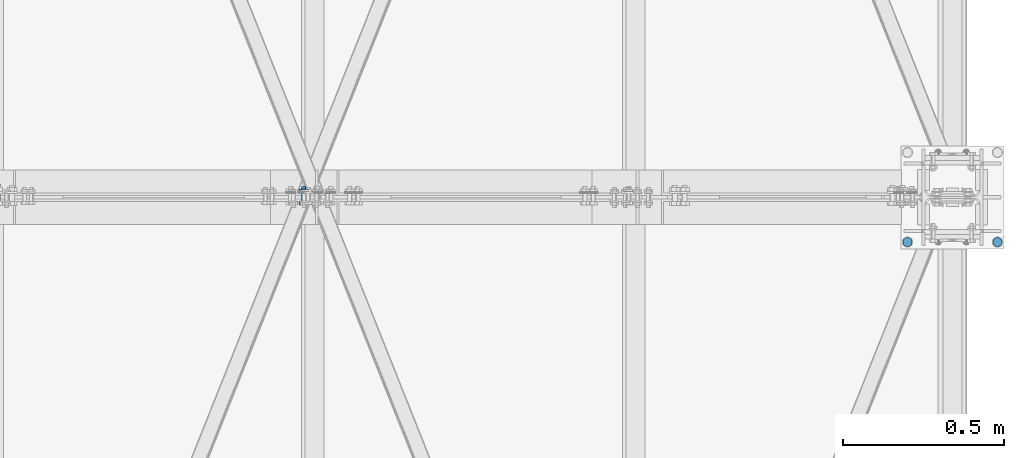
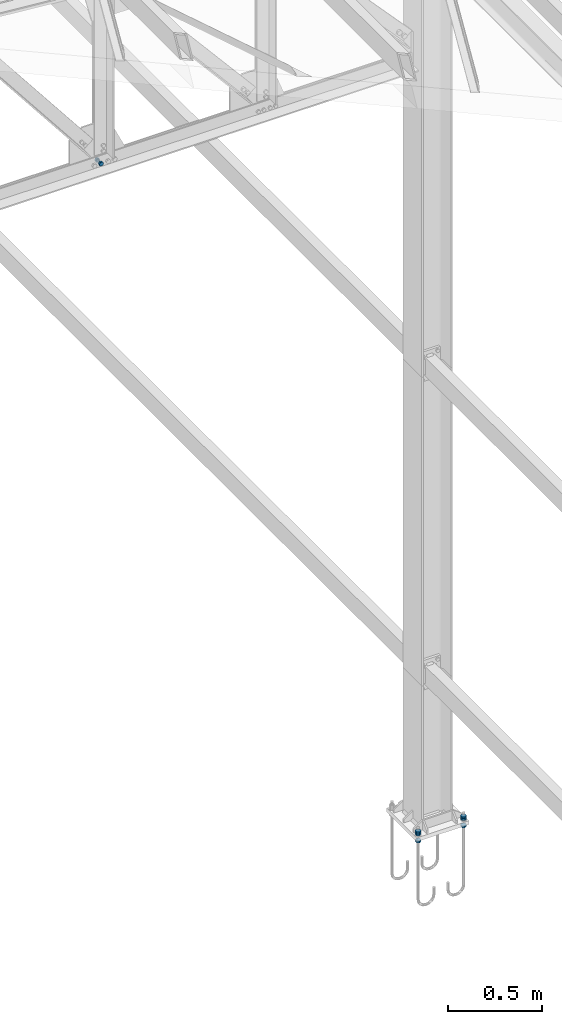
# One storey, part 157 of 251: 9 mechanical fasteners.
"""IFC4 building model written with IfcOpenShell, lengths in metres."""

from ifc_helpers import new_model, si_unit, frame, origin_with_axes, place, context, project, spatial, polyline, outline, extrude, type_object, element, save


model = new_model("IFC4")

# Units and contexts
model_context = context("Model", 3, precision=1e-05, world=origin_with_axes())
ifc_project = project(units=[si_unit("LENGTHUNIT", "METRE"), si_unit("AREAUNIT", "SQUARE_METRE"), si_unit("VOLUMEUNIT", "CUBIC_METRE"), si_unit("MASSUNIT", "GRAM", prefix="KILO"), si_unit("TIMEUNIT", "SECOND"), si_unit("PLANEANGLEUNIT", "RADIAN"), si_unit("SOLIDANGLEUNIT", "STERADIAN"), si_unit("THERMODYNAMICTEMPERATUREUNIT", "DEGREE_CELSIUS")], contexts=[model_context])

# Site, building, storey
placement_1 = place(None, origin_with_axes())
site = spatial("IfcSite", under=ifc_project, at=placement_1, Name="Italia", CompositionType="ELEMENT")
building = spatial("IfcBuilding", under=site, at=placement_1, Name="Deposito", CompositionType="ELEMENT")
storey = spatial("IfcBuildingStorey", under=building, at=placement_1, Name="Storey 0", CompositionType="ELEMENT", Elevation=0.0)

# Mechanical fasteners
mechanical_fastener_type_1 = type_object("IfcMechanicalFastenerType", Name="Collegamenti 0014_-001 0016_-054 0018_-056 0032_-002 0033_-058 0047_-003 0048_-060 0062_-004 0063_-005 0079_-008", PredefinedType="BOLT")
placement_2 = place(placement_1, origin_with_axes())
mechanical_fastener_1_placement = place(placement_2, origin_with_axes())
element("IfcMechanicalFastener", 1, at=mechanical_fastener_1_placement, inside=storey, type_object=mechanical_fastener_type_1, Name="Collegamenti 0014_-001 0016_-054 0018_-056 0032_-002 0033_-058 0047_-003 0048_-060 0062_-004 0063_-005 0079_-008", NominalDiameter=0.0160001, context=model_context, shape_type="SweptSolid", body=[
    extrude(outline(polyline([(0.0, 0.0), (-0.0160007, 0.0), (-0.0240002, 0.0138569), (-0.0160007, 0.0277138), (0.0, 0.0277138), (0.00799942, 0.0138569), (0.0, 0.0)])), frame((20.1534, 9.869, 0.079), z_axis=(0.0, 0.0, 1.0), x_axis=(0.0, 1.0, 0.0)), (0.0, 0.0, 1.0), 0.0128),
])
mechanical_fastener_type_2 = type_object("IfcMechanicalFastenerType", Name="Collegamenti 0014_-001 0016_-054 0018_-056 0032_-002 0033_-058 0047_-003 0048_-060 0062_-004 0063_-005 0079_-008", PredefinedType="BOLT")
mechanical_fastener_2_placement = place(placement_2, origin_with_axes())
element("IfcMechanicalFastener", 2, at=mechanical_fastener_2_placement, inside=storey, type_object=mechanical_fastener_type_2, Name="Collegamenti 0014_-001 0016_-054 0018_-056 0032_-002 0033_-058 0047_-003 0048_-060 0062_-004 0063_-005 0079_-008", NominalDiameter=0.0160001, context=model_context, shape_type="SweptSolid", body=[
    extrude(outline(polyline([(0.0, 0.0), (-0.0160007, 0.0), (-0.0240002, 0.0138569), (-0.0160007, 0.0277138), (0.0, 0.0277138), (0.00799942, 0.0138569), (0.0, 0.0)])), frame((20.1534, 9.869, 0.0918), z_axis=(0.0, 0.0, 1.0), x_axis=(0.0, 1.0, 0.0)), (0.0, 0.0, 1.0), 0.0128),
])
mechanical_fastener_type_3 = type_object("IfcMechanicalFastenerType", Name="Collegamenti 0014_-001 0016_-054 0018_-056 0032_-002 0033_-058 0047_-003 0048_-060 0062_-004 0063_-005 0079_-008", PredefinedType="BOLT")
mechanical_fastener_3_placement = place(placement_2, origin_with_axes())
element("IfcMechanicalFastener", 3, at=mechanical_fastener_3_placement, inside=storey, type_object=mechanical_fastener_type_3, Name="Collegamenti 0014_-001 0016_-054 0018_-056 0032_-002 0033_-058 0047_-003 0048_-060 0062_-004 0063_-005 0079_-008", NominalDiameter=0.0160001, context=model_context, shape_type="SweptSolid", body=[
    extrude(outline(polyline([(0.0, 0.0), (-0.0160007, 0.0), (-0.0240002, 0.0138569), (-0.0160007, 0.0277138), (0.0, 0.0277138), (0.00799942, 0.0138569), (0.0, 0.0)])), frame((20.1534, 9.869, 0.0332), z_axis=(0.0, 0.0, 1.0), x_axis=(0.0, 1.0, 0.0)), (0.0, 0.0, 1.0), 0.0128),
])
mechanical_fastener_type_4 = type_object("IfcMechanicalFastenerType", Name="Collegamenti 0014_-001 0016_-054 0018_-056 0032_-002 0033_-058 0047_-003 0048_-060 0062_-004 0063_-005 0079_-008", PredefinedType="BOLT")
mechanical_fastener_4_placement = place(placement_2, origin_with_axes())
element("IfcMechanicalFastener", 4, at=mechanical_fastener_4_placement, inside=storey, type_object=mechanical_fastener_type_4, Name="Collegamenti 0014_-001 0016_-054 0018_-056 0032_-002 0033_-058 0047_-003 0048_-060 0062_-004 0063_-005 0079_-008", NominalDiameter=0.0160001, context=model_context, shape_type="SweptSolid", body=[
    extrude(outline(polyline([(0.0, 0.0), (-0.0160007, 0.0), (-0.0240002, 0.0138569), (-0.0160007, 0.0277138), (0.0, 0.0277138), (0.00799942, 0.0138569), (0.0, 0.0)])), frame((19.8744, 9.869, 0.079), z_axis=(0.0, 0.0, 1.0), x_axis=(0.0, 1.0, 0.0)), (0.0, 0.0, 1.0), 0.0128),
])
mechanical_fastener_type_5 = type_object("IfcMechanicalFastenerType", Name="Collegamenti 0014_-001 0016_-054 0018_-056 0032_-002 0033_-058 0047_-003 0048_-060 0062_-004 0063_-005 0079_-008", PredefinedType="BOLT")
mechanical_fastener_5_placement = place(placement_2, origin_with_axes())
element("IfcMechanicalFastener", 5, at=mechanical_fastener_5_placement, inside=storey, type_object=mechanical_fastener_type_5, Name="Collegamenti 0014_-001 0016_-054 0018_-056 0032_-002 0033_-058 0047_-003 0048_-060 0062_-004 0063_-005 0079_-008", NominalDiameter=0.0160001, context=model_context, shape_type="SweptSolid", body=[
    extrude(outline(polyline([(0.0, 0.0), (-0.0160007, 0.0), (-0.0240002, 0.0138569), (-0.0160007, 0.0277138), (0.0, 0.0277138), (0.00799942, 0.0138569), (0.0, 0.0)])), frame((19.8744, 9.869, 0.0918), z_axis=(0.0, 0.0, 1.0), x_axis=(0.0, 1.0, 0.0)), (0.0, 0.0, 1.0), 0.0128),
])
mechanical_fastener_type_6 = type_object("IfcMechanicalFastenerType", Name="Collegamenti 0014_-001 0016_-054 0018_-056 0032_-002 0033_-058 0047_-003 0048_-060 0062_-004 0063_-005 0079_-008", PredefinedType="BOLT")
mechanical_fastener_6_placement = place(placement_2, origin_with_axes())
element("IfcMechanicalFastener", 6, at=mechanical_fastener_6_placement, inside=storey, type_object=mechanical_fastener_type_6, Name="Collegamenti 0014_-001 0016_-054 0018_-056 0032_-002 0033_-058 0047_-003 0048_-060 0062_-004 0063_-005 0079_-008", NominalDiameter=0.0160001, context=model_context, shape_type="SweptSolid", body=[
    extrude(outline(polyline([(0.0, 0.0), (-0.0160007, 0.0), (-0.0240002, 0.0138569), (-0.0160007, 0.0277138), (0.0, 0.0277138), (0.00799942, 0.0138569), (0.0, 0.0)])), frame((19.8744, 9.869, 0.0332), z_axis=(0.0, 0.0, 1.0), x_axis=(0.0, 1.0, 0.0)), (0.0, 0.0, 1.0), 0.0128),
])
mechanical_fastener_type_7 = type_object("IfcMechanicalFastenerType", Name="Reticolare 4", PredefinedType="BOLT")
mechanical_fastener_7_placement = place(placement_2, origin_with_axes())
element("IfcMechanicalFastener", 7, at=mechanical_fastener_7_placement, inside=storey, type_object=mechanical_fastener_type_7, Name="Reticolare 4", NominalDiameter=0.0139997, context=model_context, shape_type="SweptSolid", body=[
    extrude(outline(polyline([(0.0, 0.0), (-0.0139999, 0.0), (-0.0209999, 0.0121241), (-0.0139999, 0.0242486), (0.0, 0.0242486), (0.00699997, 0.0121241), (0.0, 0.0)])), frame((17.9926, 9.987, 4.99688), z_axis=(0.0, -1.0, 0.0), x_axis=(1.0, 0.0, 0.0)), (0.0, 0.0, 1.0), 0.0112009),
])
mechanical_fastener_type_8 = type_object("IfcMechanicalFastenerType", Name="Reticolare 4", PredefinedType="BOLT")
mechanical_fastener_8_placement = place(placement_2, origin_with_axes())
element("IfcMechanicalFastener", 8, at=mechanical_fastener_8_placement, inside=storey, type_object=mechanical_fastener_type_8, Name="Reticolare 4", NominalDiameter=0.014, context=model_context, shape_type="SweptSolid", body=[
    extrude(outline(polyline([(0.0, 0.0), (-0.000238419, -0.0018115), (-0.000938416, -0.00349998), (-0.0020504, -0.00494957), (-0.00349998, -0.00606203), (-0.00518799, -0.00676155), (-0.00699997, -0.00699997), (-0.00881195, -0.00676155), (-0.0105, -0.00606203), (-0.0119495, -0.00494957), (-0.0130615, -0.00349998), (-0.0137615, -0.0018115), (-0.0139999, 0.0), (-0.0137615, 0.0018115), (-0.0130615, 0.00349998), (-0.0119495, 0.00494957), (-0.0105, 0.00606203), (-0.00881195, 0.00676155), (-0.00699997, 0.00699997), (-0.00518799, 0.00676155), (-0.00349998, 0.00606203), (-0.0020504, 0.00494957), (-0.000938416, 0.00349998), (-0.000238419, 0.0018115), (0.0, 0.0)])), frame((17.9926, 10.034, 5.009), z_axis=(0.0, -1.0, 0.0), x_axis=(1.0, 0.0, 0.0)), (0.0, 0.0, 1.0), 0.0469999),
])
mechanical_fastener_type_9 = type_object("IfcMechanicalFastenerType", Name="Reticolare 4", PredefinedType="BOLT")
mechanical_fastener_9_placement = place(placement_2, origin_with_axes())
element("IfcMechanicalFastener", 9, at=mechanical_fastener_9_placement, inside=storey, type_object=mechanical_fastener_type_9, Name="Reticolare 4", NominalDiameter=0.0139997, context=model_context, shape_type="SweptSolid", body=[
    extrude(outline(polyline([(0.0, 0.0), (-0.0139999, 0.0), (-0.0209999, 0.0121241), (-0.0139999, 0.0242486), (0.0, 0.0242486), (0.00699997, 0.0121241), (0.0, 0.0)])), frame((17.9926, 10.0262, 4.99688), z_axis=(0.0, -1.0, 0.0), x_axis=(1.0, 0.0, 0.0)), (0.0, 0.0, 1.0), 0.0112),
])

save(model, "model.ifc")
